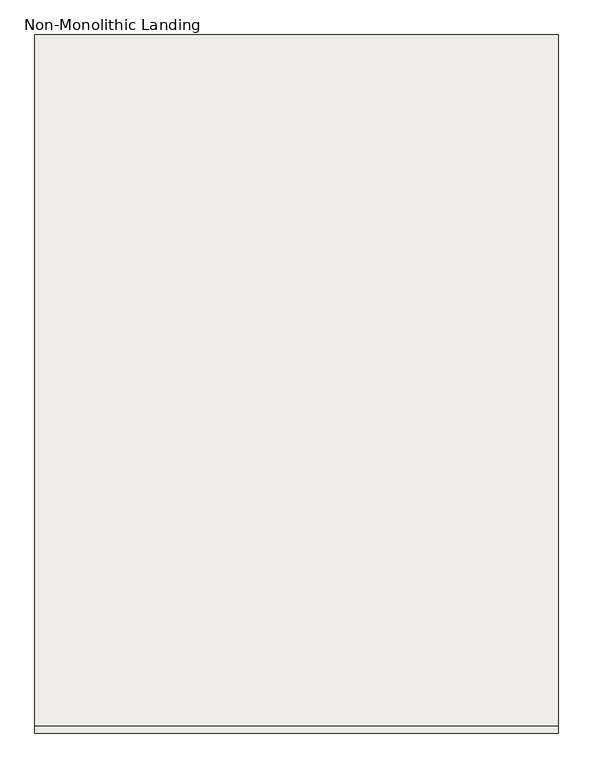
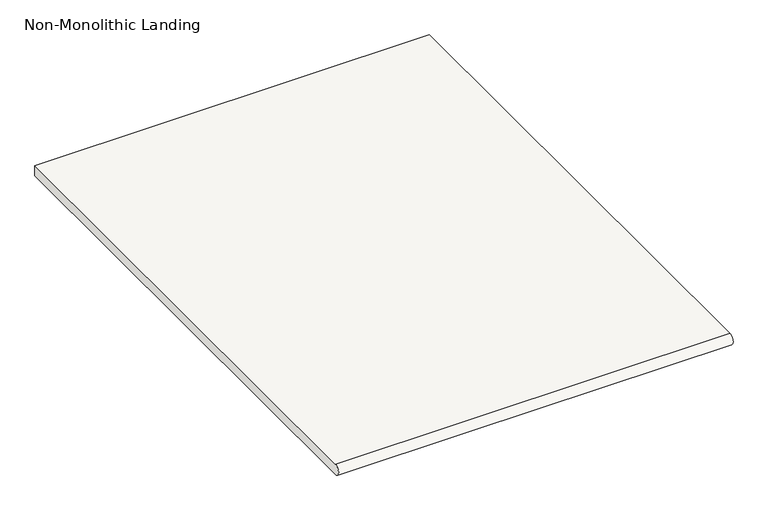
"""IFC4 building model written with IfcOpenShell, lengths in millimetres: slab geometry, Non-Monolithic Landing."""

from ifc_helpers import new_model, si_unit, point, frame, frame_2d, origin, place, context, project, spatial, polyline, circle_curve, trimmed, segment, composite_curve, outline, extrude, source, transform, mapped, element, save


def non_monolithic_landing_39bc03cd(model_context):
    return source(origin(), model_context, "Body", "SweptSolid", [
        extrude(outline(composite_curve([segment(polyline([(-1677.6289462, 1676.4), (-471.1289462, 1676.4), (-471.1289462, 1651.0), (-1677.6289462, 1651.0)]), True, "CONTINUOUS"), segment(trimmed(circle_curve(frame_2d((-1677.6289462, 1663.7)), 12.7), [point((-1677.6289462, 1651.0))], [point((-1677.6289462, 1676.4))], False, "CARTESIAN"), True, "CONTINUOUS")], self_intersect=False)), frame((10809.7620514, 0.0, 0.0), z_axis=(1.0, 0.0, 0.0), x_axis=(0.0, 1.0, 0.0)), (0.0, 0.0, 1.0), 914.4),
    ])


if __name__ == "__main__":
    model = new_model("IFC4")
    model_context = context("Model", 3, world=origin())
    ifc_project = project(units=[si_unit("LENGTHUNIT", "METRE", prefix="MILLI")], contexts=[model_context])
    site = spatial("IfcSite", under=ifc_project)
    building = spatial("IfcBuilding", under=site)
    placement = place(None, origin())
    non_monolithic_landing_shape = non_monolithic_landing_39bc03cd(model_context)
    element("IfcSlab", 1, ObjectType="Non-Monolithic Landing", at=placement, inside=building, context=model_context, shape_type="MappedRepresentation", body=[
        mapped(non_monolithic_landing_shape, transform((0.0, 0.0, 0.0), x_axis=(1.0, 0.0, 0.0), y_axis=(0.0, 1.0, 0.0), z_axis=(0.0, 0.0, 1.0))),
    ])
    save(model, "model.ifc")
